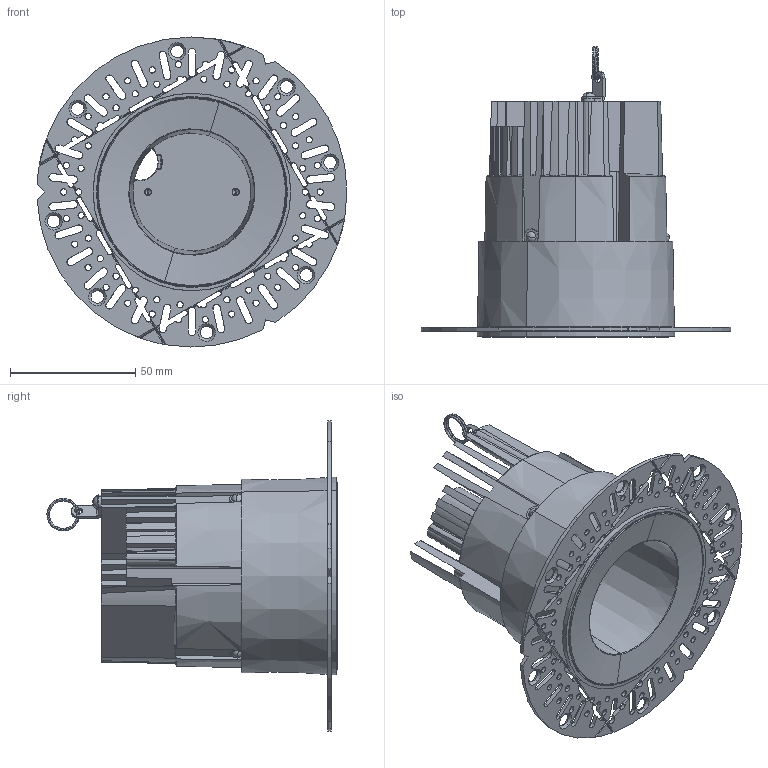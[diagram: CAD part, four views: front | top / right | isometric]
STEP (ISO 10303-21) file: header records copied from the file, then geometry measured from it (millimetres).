
FILE_DESCRIPTION (( 'STEP AP214' ), '1' );
FILE_NAME ('WG-H-PTD3-FA-RPT-RFPH.STEP', '2023-02-17T19:39:24', ( '' ), ( '' ), 'SwSTEP 2.0', 'SolidWorks 2021', '' );
FILE_SCHEMA (( 'AUTOMOTIVE_DESIGN' ));
Length unit declared in the file: millimetre
Products named in the file (10): 720-10044-300; WG-IN-PTD3-RFPH-__-__WG-CV-PTD3-RFPH-OA-_; 720-10059-304; WG-H-PTD3-FA-RPT-RFPH; 720-10042-300; GDL PLUS heat sink aircraft wire L-bracket; 310-10082-200_310-10082-200; Part1^WG-H-PTD3-FA-RPT-_-__; 370-10013-200; 100 ProTools heat sink aircraft wire loop 2019-09-26
Assembly tree (10 placements, depth 3):
  WG-H-PTD3-FA-RPT-RFPH
    720-10042-300
    720-10044-300
    370-10013-200  x3
    310-10082-200_310-10082-200
    GDL PLUS heat sink aircraft wire L-bracket
    100 ProTools heat sink aircraft wire loop 2019-09-26
    WG-IN-PTD3-RFPH-__-__WG-CV-PTD3-RFPH-OA-_
      720-10059-304
  Part1^WG-H-PTD3-FA-RPT-_-__
Bounding box: 123.93 x 116 x 124 mm (x, y, z)
Volume: 124310.2 mm3; surface area: 117106.8 mm2
Topology: 9 solids, 9 shells, 1205 faces, 3468 edges, 2215 vertices
Faces by surface type: plane 515, cone 398, cylinder 145, bspline 61, torus 55, sphere 31
Entity records: 42852 total; most frequent: CARTESIAN_POINT 11749, ORIENTED_EDGE 6808, DIRECTION 6262, EDGE_CURVE 3404, AXIS2_PLACEMENT_3D 2376, VERTEX_POINT 2189, LINE 1510, VECTOR 1510
